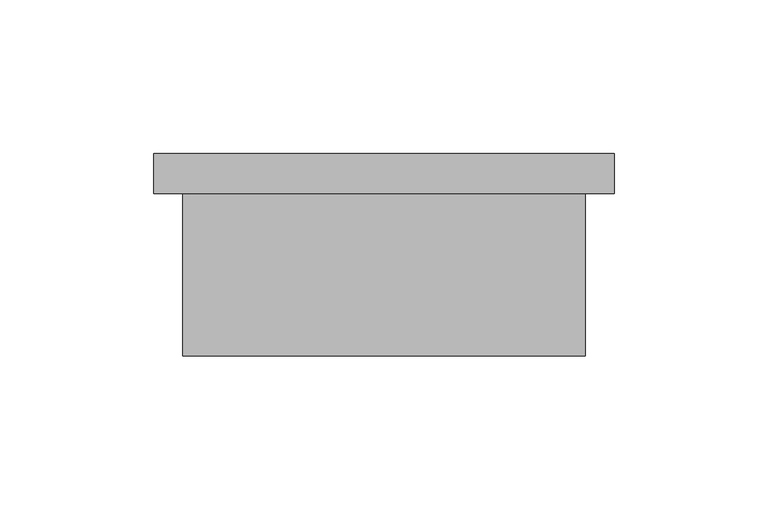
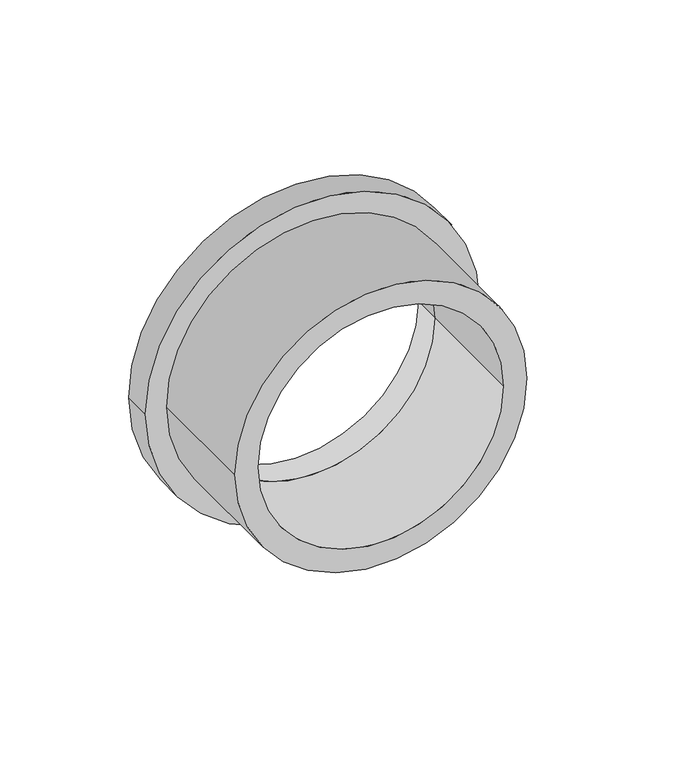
"""IFC4 building model written with IfcOpenShell, lengths in millimetres: pipe fitting geometry, 01051020 : Colarinho."""

from ifc_helpers import new_model, si_unit, point, frame, origin, origin_2d, place, context, project, spatial, circle_curve, trimmed, segment, composite_curve, outline, extrude, source, transform, mapped, element, save


def pipe_fitting_6e65d368(model_context):
    return source(origin(), model_context, "Body", "SweptSolid", [
        extrude(outline(composite_curve([segment(trimmed(circle_curve(origin_2d(), 65.5), [point((0.0, -65.5))], [point((0.0, 65.5))], False, "CARTESIAN"), True, "CONTINUOUS"), segment(trimmed(circle_curve(origin_2d(), 65.5), [point((0.0, 65.5))], [point((0.0, -65.5))], False, "CARTESIAN"), True, "CONTINUOUS")], self_intersect=False), holes=[composite_curve([segment(trimmed(circle_curve(origin_2d(), 55.0), [point((0.0, -55.0))], [point((0.0, 55.0))], True, "CARTESIAN"), True, "CONTINUOUS"), segment(trimmed(circle_curve(origin_2d(), 55.0), [point((0.0, 55.0))], [point((0.0, -55.0))], True, "CARTESIAN"), True, "CONTINUOUS")], self_intersect=False)]), frame((0.0, -53.0, 0.0), z_axis=(0.0, 1.0, 0.0), x_axis=(0.0, 0.0, 1.0)), (0.0, 0.0, 1.0), 53.0),
        extrude(outline(composite_curve([segment(trimmed(circle_curve(origin_2d(), 75.0), [point((0.0, -75.0))], [point((0.0, 75.0))], False, "CARTESIAN"), True, "CONTINUOUS"), segment(trimmed(circle_curve(origin_2d(), 75.0), [point((0.0, 75.0))], [point((0.0, -75.0))], False, "CARTESIAN"), True, "CONTINUOUS")], self_intersect=False), holes=[composite_curve([segment(trimmed(circle_curve(origin_2d(), 55.0), [point((0.0, -55.0))], [point((0.0, 55.0))], True, "CARTESIAN"), True, "CONTINUOUS"), segment(trimmed(circle_curve(origin_2d(), 55.0), [point((0.0, 55.0))], [point((0.0, -55.0))], True, "CARTESIAN"), True, "CONTINUOUS")], self_intersect=False)]), frame((0.0, 0.0, 0.0), z_axis=(0.0, 1.0, 0.0), x_axis=(0.0, 0.0, 1.0)), (0.0, 0.0, 1.0), 13.0),
    ])


if __name__ == "__main__":
    model = new_model("IFC4")
    model_context = context("Model", 3, world=origin())
    ifc_project = project(units=[si_unit("LENGTHUNIT", "METRE", prefix="MILLI")], contexts=[model_context])
    site = spatial("IfcSite", under=ifc_project)
    building = spatial("IfcBuilding", under=site)
    placement = place(None, origin())
    pipe_fitting_shape = pipe_fitting_6e65d368(model_context)
    element("IfcPipeFitting", 1, ObjectType="01051020 : Colarinho", at=placement, inside=building, context=model_context, shape_type="MappedRepresentation", body=[
        mapped(pipe_fitting_shape, transform((0.0, 0.0, 0.0), x_axis=(1.0, 0.0, 0.0), y_axis=(0.0, 1.0, 0.0), z_axis=(0.0, 0.0, 1.0))),
    ])
    save(model, "model.ifc")
